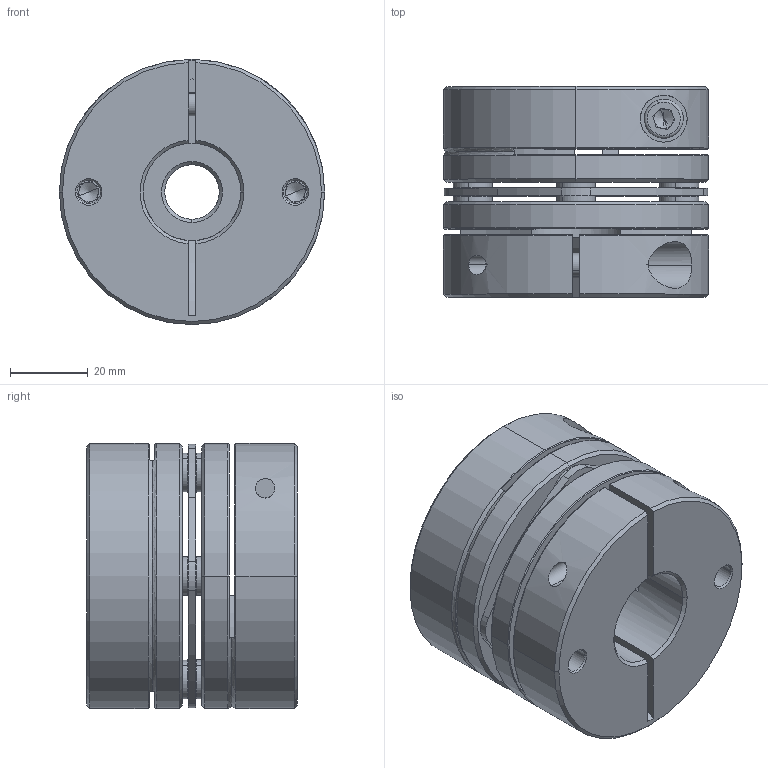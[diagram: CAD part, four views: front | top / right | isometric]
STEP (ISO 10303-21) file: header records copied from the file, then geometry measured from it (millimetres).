
FILE_DESCRIPTION (( 'STEP AP203' ), '1' );
FILE_NAME ('LD1-D68-14-25.STEP', '2021-10-26T07:46:57', ( '' ), ( '' ), 'SwSTEP 2.0', 'SolidWorks 2018', '' );
FILE_SCHEMA (( 'CONFIG_CONTROL_DESIGN' ));
Length unit declared in the file: millimetre
Products named in the file (2): 錨璃101^LD1-D68; LD1-D68-14-25
Assembly tree (1 placements, depth 2):
  LD1-D68-14-25
    錨璃101^LD1-D68
Bounding box: 68 x 54 x 68 mm (x, y, z)
Volume: 150612.7 mm3; surface area: 46782.5 mm2
Topology: 1 solids, 15 shells, 443 faces, 1063 edges, 652 vertices
Faces by surface type: cylinder 161, plane 138, cone 122, torus 22
Entity records: 13477 total; most frequent: CARTESIAN_POINT 2615, DIRECTION 2435, ORIENTED_EDGE 2094, EDGE_CURVE 1047, AXIS2_PLACEMENT_3D 988, VERTEX_POINT 652, CIRCLE 541, EDGE_LOOP 523
